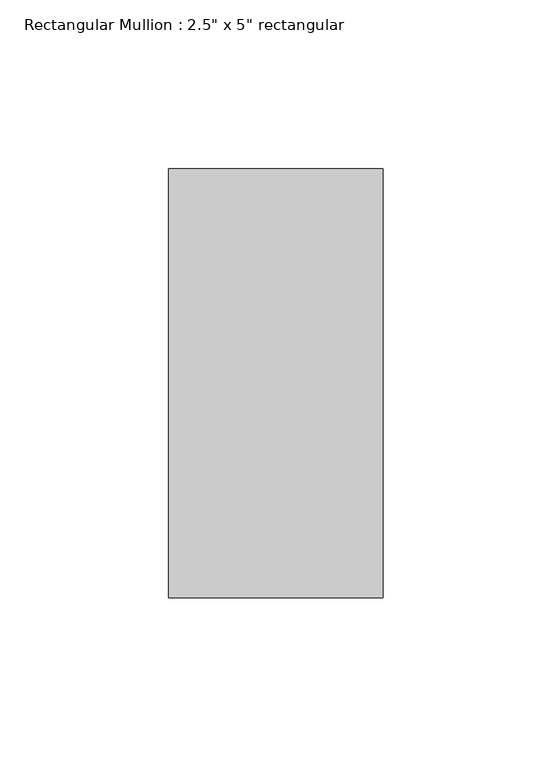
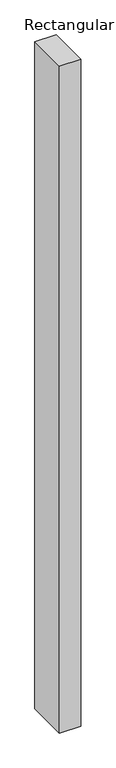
"""IFC4 building model written with IfcOpenShell, lengths in millimetres: member geometry."""

from ifc_helpers import new_model, si_unit, frame, origin, place, context, project, spatial, polyline, outline, extrude, source, transform, mapped, element, save


def member_7baf4926(model_context):
    return source(origin(), model_context, "Body", "SweptSolid", [
        extrude(outline(polyline([(31.75, 63.5), (31.75, -63.5), (-31.75, -63.5), (-31.75, 63.5), (31.75, 63.5)])), frame((0.0, 0.0, -2103.4983428), z_axis=(0.0, 0.0, 1.0), x_axis=(1.0, 0.0, 0.0)), (0.0, 0.0, 1.0), 2103.4983428),
    ])


if __name__ == "__main__":
    model = new_model("IFC4")
    model_context = context("Model", 3, world=origin())
    ifc_project = project(units=[si_unit("LENGTHUNIT", "METRE", prefix="MILLI")], contexts=[model_context])
    site = spatial("IfcSite", under=ifc_project)
    building = spatial("IfcBuilding", under=site)
    placement = place(None, origin())
    member_shape = member_7baf4926(model_context)
    element("IfcMember", 1, ObjectType="Rectangular Mullion : 2.5\" x 5\" rectangular", at=placement, inside=building, context=model_context, shape_type="MappedRepresentation", body=[
        mapped(member_shape, transform((0.0, 0.0, 0.0), x_axis=(1.0, 0.0, 0.0), y_axis=(0.0, 1.0, 0.0), z_axis=(0.0, 0.0, 1.0))),
    ])
    save(model, "model.ifc")
